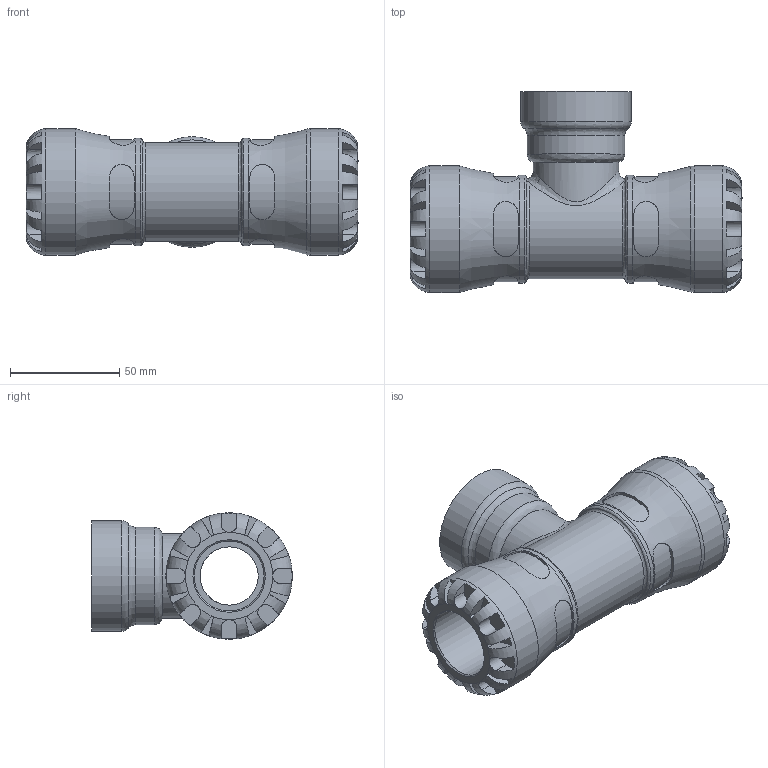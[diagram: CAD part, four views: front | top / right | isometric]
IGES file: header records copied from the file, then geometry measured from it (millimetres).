
Global section: file name: 101400032013_191400032013.ipt; native system: Autodesk Inventor 2015; preprocessor: unknown; author: KIM; date: 20170130.090646; units: millimetre
Bounding box: 152 x 92 x 58 mm (x, y, z)
Volume: 213562.4 mm3; surface area: 57699 mm2
Topology: 1 solids, 1 shells, 204 faces, 537 edges, 344 vertices
Faces by surface type: plane 120, revolution 51, cylinder 32, bspline 1
Full cylindrical faces by diameter (mm): 38.952 x1, 44.795 x1, 49.3 x2, 50.638 x1, 58 x2
